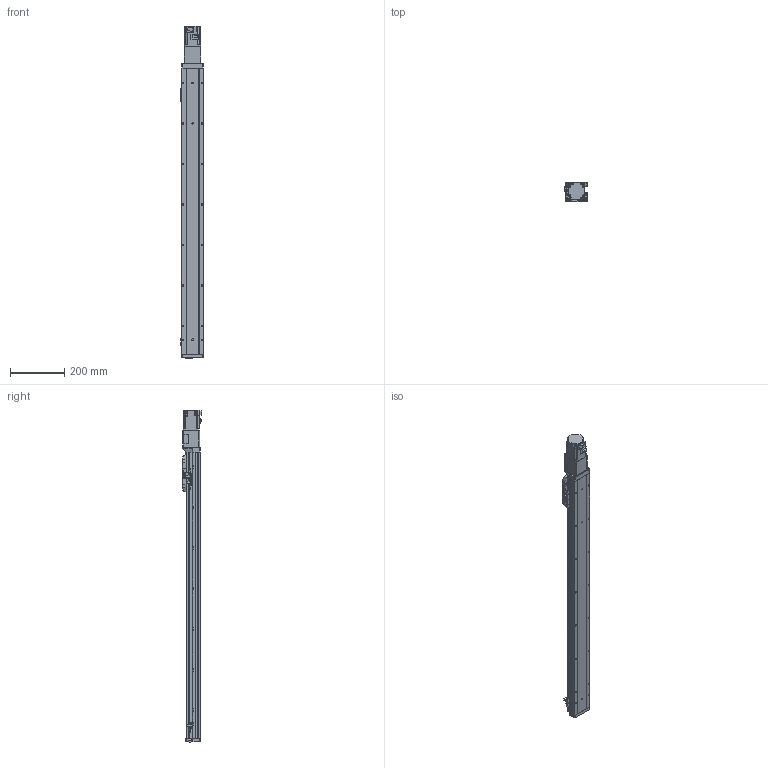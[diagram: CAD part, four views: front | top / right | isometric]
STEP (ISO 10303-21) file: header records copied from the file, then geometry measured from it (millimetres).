
FILE_DESCRIPTION (( 'STEP AP214' ), '1' );
FILE_NAME ('GSH8-900-BC-M20-1.step', '2025-01-07T06:04:36', ( '' ), ( '' ), 'SwSTEP 2.0', 'SolidWorks 2012', '' );
FILE_SCHEMA (( 'AUTOMOTIVE_DESIGN' ));
Length unit declared in the file: millimetre
Products named in the file (4): GSH8-900-BC-M20-1; GSH8-BC-011-900-M20; GSH8-GY-004; HG-KR23_200W_Motor
Assembly tree (3 placements, depth 2):
  GSH8-900-BC-M20-1
    GSH8-BC-011-900-M20
    GSH8-GY-004
    HG-KR23_200W_Motor
Bounding box: 84 x 71.3 x 1227.6 mm (x, y, z)
Volume: 2363840.7 mm3; surface area: 650200.6 mm2
Topology: 3 solids, 7 shells, 1165 faces, 3098 edges, 1998 vertices
Faces by surface type: plane 664, cylinder 409, torus 38, cone 26, bspline 24, sphere 4
Entity records: 46136 total; most frequent: CARTESIAN_POINT 10813, DIRECTION 6278, ORIENTED_EDGE 6180, EDGE_CURVE 3090, AXIS2_PLACEMENT_3D 2111, VECTOR 2056, LINE 2056, VERTEX_POINT 1994
